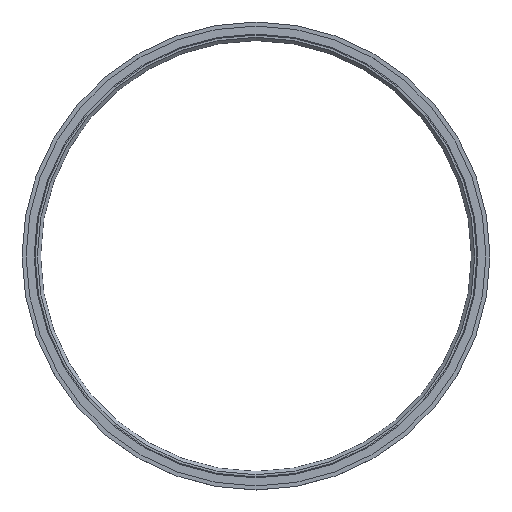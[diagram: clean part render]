
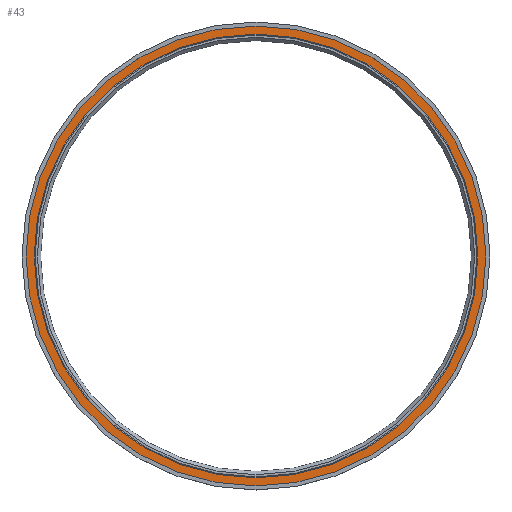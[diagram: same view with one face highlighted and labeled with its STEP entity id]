
A CAD part, top view. The second image highlights one B-rep face of the part: STEP entity #43.
In plain terms, the highlighted planar face has unit normal (0, 0, 1).
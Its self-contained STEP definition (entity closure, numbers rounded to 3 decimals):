
#43 = ADVANCED_FACE( '', ( #92, #93 ), #94, .F. );
#92 = FACE_OUTER_BOUND( '', #151, .T. );
#93 = FACE_BOUND( '', #152, .T. );
#94 = PLANE( '', #153 );
#151 = EDGE_LOOP( '', ( #210 ) );
#152 = EDGE_LOOP( '', ( #211 ) );
#153 = AXIS2_PLACEMENT_3D( '', #212, #213, #214 );
#210 = ORIENTED_EDGE( '', *, *, #277, .F. );
#211 = ORIENTED_EDGE( '', *, *, #270, .T. );
#212 = CARTESIAN_POINT( '', ( -142.5, 0., 10. ) );
#213 = DIRECTION( '', ( 0., 0., -1. ) );
#214 = DIRECTION( '', ( -1., 0., 0. ) );
#270 = EDGE_CURVE( '', #296, #296, #297, .T. );
#277 = EDGE_CURVE( '', #308, #308, #309, .T. );
#296 = VERTEX_POINT( '', #335 );
#297 = CIRCLE( '', #336, 137.5 );
#308 = VERTEX_POINT( '', #347 );
#309 = CIRCLE( '', #348, 142.5 );
#335 = CARTESIAN_POINT( '', ( -137.5, 0., 10. ) );
#336 = AXIS2_PLACEMENT_3D( '', #373, #374, #375 );
#347 = CARTESIAN_POINT( '', ( -142.5, 0., 10. ) );
#348 = AXIS2_PLACEMENT_3D( '', #388, #389, #390 );
#373 = CARTESIAN_POINT( '', ( 0., 0., 10. ) );
#374 = DIRECTION( '', ( 0., 0., -1. ) );
#375 = DIRECTION( '', ( -1., 0., 0. ) );
#388 = CARTESIAN_POINT( '', ( 0., 0., 10. ) );
#389 = DIRECTION( '', ( 0., 0., -1. ) );
#390 = DIRECTION( '', ( -1., 0., 0. ) );
